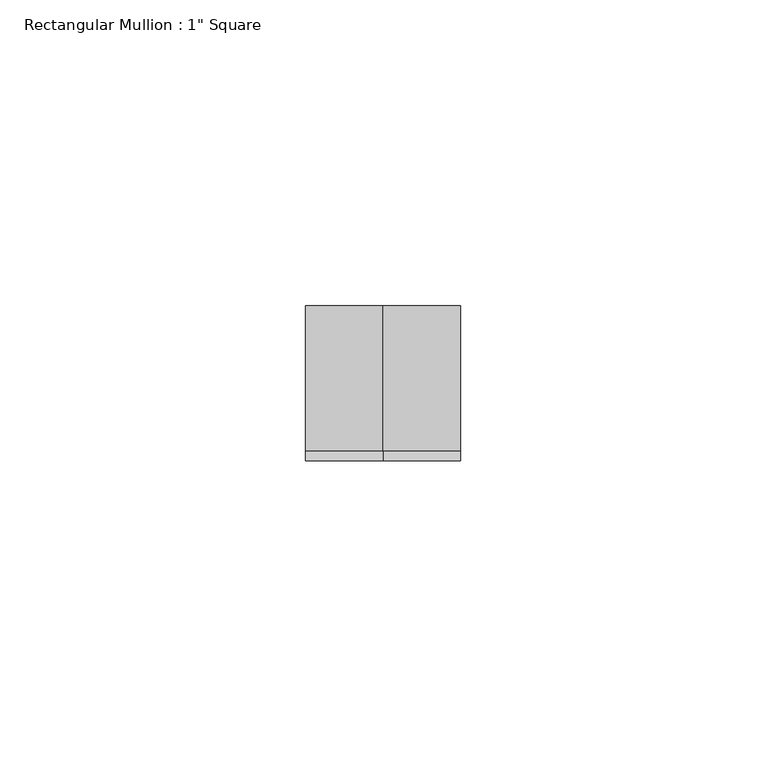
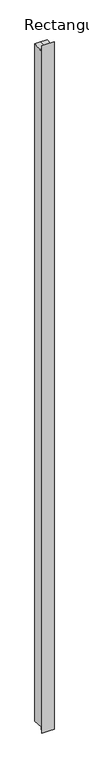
"""IFC4 building model written with IfcOpenShell, lengths in millimetres: member geometry."""

import ifcopenshell
import ifcopenshell.guid

model = None  # the IFC model being written
_history = None  # IfcOwnerHistory: only IFC2X3 demands one
_inside = {}  # id of a spatial element -> (the spatial element, [elements in it])
_under = {}  # id of a project, library or spatial element -> (it, [spatial elements below it])
_declared = {}  # id of a project -> (the project, [libraries it declares])
_typed = {}  # id of a type object -> (the type object, [elements of that type])
_made_of = {}  # id of a material, layer set ... -> (it, [elements and type objects made of it])


def new_model(schema):
    """Start an empty IFC model of exactly this schema.

    Asked for "IFC4X3", IfcOpenShell would pick the latest addendum, in which some entities
    have other attributes; the version numbers below select the first issue.
    IFC2X3 requires an IfcOwnerHistory on every rooted entity: one is made here for all.
    """
    global model, _history
    if schema == "IFC4X3":
        model = ifcopenshell.file(schema_version=(4, 3, 0, 0))
    else:
        model = ifcopenshell.file(schema=schema)
    _inside.clear()
    _under.clear()
    _declared.clear()
    _typed.clear()
    _made_of.clear()
    _history = None
    if model.schema == "IFC2X3":
        org = make("IfcOrganization", Name="unknown")
        user = make(
            "IfcPersonAndOrganization",
            ThePerson=make("IfcPerson", FamilyName="unknown"),
            TheOrganization=org,
        )
        app = make(
            "IfcApplication",
            ApplicationDeveloper=org,
            Version="unknown",
            ApplicationFullName="unknown",
            ApplicationIdentifier="unknown",
        )
        _history = make(
            "IfcOwnerHistory",
            OwningUser=user,
            OwningApplication=app,
            ChangeAction="ADDED",
            CreationDate=0,
        )
    return model


def make(cls, **values):
    """One entity of the class cls with the attributes given. An attribute that is None is left unset."""
    return model.create_entity(
        cls, **{name: value for name, value in values.items() if value is not None}
    )


def rooted(cls, **values):
    """An entity with a GlobalId (a new one), such as an element, a storey or a relation."""
    return make(cls, GlobalId=ifcopenshell.guid.new(), OwnerHistory=_history, **values)


def si_unit(unit_type, name, prefix=None):
    """IfcSIUnit, for example si_unit("LENGTHUNIT", "METRE", prefix="MILLI")."""
    return make("IfcSIUnit", UnitType=unit_type, Prefix=prefix, Name=name)


def assignment(units):
    """IfcUnitAssignment: the units of a project."""
    return None if units is None else make("IfcUnitAssignment", Units=units)


def point(xyz):
    """IfcCartesianPoint."""
    return None if xyz is None else make("IfcCartesianPoint", Coordinates=xyz)


def direction(xyz):
    """IfcDirection."""
    return None if xyz is None else make("IfcDirection", DirectionRatios=xyz)


def frame(location, z_axis=None, x_axis=None):
    """IfcAxis2Placement3D, a coordinate frame: its origin and axes. An axis left out is left unset."""
    return make(
        "IfcAxis2Placement3D",
        Location=point(location),
        Axis=direction(z_axis),
        RefDirection=direction(x_axis),
    )


def origin():
    """The frame at (0, 0, 0) with its axes left unset."""
    return frame((0.0, 0.0, 0.0))


def place(relative_to, where):
    """IfcLocalPlacement: puts the frame where relative to a parent placement (None: the world)."""
    return make(
        "IfcLocalPlacement", PlacementRelTo=relative_to, RelativePlacement=where
    )


def context(
    kind, dimensions, precision=None, world=None, true_north=None, identifier=None
):
    """IfcGeometricRepresentationContext, for example the 3D "Model" context."""
    return make(
        "IfcGeometricRepresentationContext",
        ContextIdentifier=identifier,
        ContextType=kind,
        CoordinateSpaceDimension=dimensions,
        Precision=precision,
        WorldCoordinateSystem=world,
        TrueNorth=true_north,
    )


def project(units=None, contexts=None):
    """IfcProject with its units and contexts."""
    return rooted(
        "IfcProject",
        Name="project",
        RepresentationContexts=contexts,
        UnitsInContext=assignment(units),
    )


def spatial(cls, under=None, at=None, **own):
    """A site, building, storey or space (cls), placed at a placement, below another one or the project."""
    s = rooted(cls, ObjectPlacement=at, **own)
    if under is not None:
        _under.setdefault(under.id(), (under, []))[1].append(s)
    return s


def faces_of(points, faces, orient=None, outer=None):
    """IfcFace entities. A face is a list of loops; a loop is a list of indices into points, from 0.

    orient and outer hold one flag for each loop. By default every Orientation is true, the
    first loop of a face is its IfcFaceOuterBound and the others are IfcFaceBound.
    """
    made = []
    for i, loops in enumerate(faces):
        bounds = []
        for j, loop in enumerate(loops):
            is_outer = j == 0 if outer is None else outer[i][j]
            bounds.append(
                make(
                    "IfcFaceOuterBound" if is_outer else "IfcFaceBound",
                    Bound=make("IfcPolyLoop", Polygon=[points[k] for k in loop]),
                    Orientation=True if orient is None else orient[i][j],
                )
            )
        made.append(make("IfcFace", Bounds=bounds))
    return made


def faceted_brep(points, faces, orient=None, outer=None, voids=None):
    """IfcFacetedBrep: a solid bounded by flat faces; with voids (closed shells), ...WithVoids."""
    shared = [point(p) for p in points]
    hull = make("IfcClosedShell", CfsFaces=faces_of(shared, faces, orient, outer))
    if voids is None:
        return make("IfcFacetedBrep", Outer=hull)
    return make(
        "IfcFacetedBrepWithVoids",
        Outer=hull,
        Voids=[
            make(cls, CfsFaces=faces_of(shared, fs, o, b)) for cls, fs, o, b in voids
        ],
    )


def shape(context_of_items, identifier, shape_type, items):
    """IfcShapeRepresentation: the items that make up one representation, for example the "Body"."""
    return make(
        "IfcShapeRepresentation",
        ContextOfItems=context_of_items,
        RepresentationIdentifier=identifier,
        RepresentationType=shape_type,
        Items=items,
    )


def source(mapping_origin, context_of_items, identifier, shape_type, items):
    """IfcRepresentationMap: a shape defined once, which mapped items show again and again."""
    return make(
        "IfcRepresentationMap",
        MappingOrigin=mapping_origin,
        MappedRepresentation=shape(context_of_items, identifier, shape_type, items),
    )


def transform(
    local_origin,
    x_axis=None,
    y_axis=None,
    z_axis=None,
    scale=None,
    scale2=None,
    scale3=None,
    uniform=True,
):
    """IfcCartesianTransformationOperator3D, or its non-uniform kind. x_axis, y_axis, z_axis: its Axis1, 2, 3."""
    if uniform:
        return make(
            "IfcCartesianTransformationOperator3D",
            Axis1=direction(x_axis),
            Axis2=direction(y_axis),
            LocalOrigin=point(local_origin),
            Scale=scale,
            Axis3=direction(z_axis),
        )
    return make(
        "IfcCartesianTransformationOperator3DnonUniform",
        Axis1=direction(x_axis),
        Axis2=direction(y_axis),
        LocalOrigin=point(local_origin),
        Scale=scale,
        Axis3=direction(z_axis),
        Scale2=scale2,
        Scale3=scale3,
    )


def mapped(mapping_source, mapping_target):
    """IfcMappedItem: shows the shape of a source again, moved by a transform."""
    return make(
        "IfcMappedItem", MappingSource=mapping_source, MappingTarget=mapping_target
    )


def made_of(thing, what):
    """Note that an element or type object is made of a material, layer set ...; save() writes the relation."""
    if what is not None:
        _made_of.setdefault(what.id(), (what, []))[1].append(thing)
    return thing


def element(
    cls,
    number,
    at=None,
    inside=None,
    cuts=None,
    type_object=None,
    material=None,
    context=None,
    identifier="Body",
    shape_type=None,
    held_by="IfcProductDefinitionShape",
    body=None,
    shapes=None,
    **own,
):
    """One element of the class cls, such as IfcWall. Its Tag is "e" and its number.

    at: its placement. inside: the storey or other place that contains it. cuts: it is an
    opening in that element (IfcRelVoidsElement). A single representation is given by context,
    identifier, shape_type and body (its items); several are given by shapes. held_by: the class
    of the entity that holds the representations. save() writes the other relations.
    """
    e = rooted(cls, Tag="e%d" % number, ObjectPlacement=at, **own)
    if body is not None:
        shapes = [shape(context, identifier, shape_type, body)]
    if shapes is not None:
        e.Representation = make(held_by, Representations=shapes)
    if inside is not None:
        _inside.setdefault(inside.id(), (inside, []))[1].append(e)
    if cuts is not None:
        rooted(
            "IfcRelVoidsElement", RelatingBuildingElement=cuts, RelatedOpeningElement=e
        )
    if type_object is not None:
        _typed.setdefault(type_object.id(), (type_object, []))[1].append(e)
    return made_of(e, material)


def aggregate(whole, parts):
    """IfcRelAggregates: a whole, such as a stair, and the parts it consists of."""
    return rooted("IfcRelAggregates", RelatingObject=whole, RelatedObjects=parts)


def save(model, path):
    """Write the relations noted so far, then the file.

    IfcRelAggregates (storeys below a building ...), IfcRelContainedInSpatialStructure (elements
    in a storey), IfcRelDefinesByType, IfcRelAssociatesMaterial and IfcRelDeclares: one each for
    every whole, place, type object, material and project.
    """
    for whole, parts in _under.values():
        aggregate(whole, parts)
    for where, things in _inside.values():
        rooted(
            "IfcRelContainedInSpatialStructure",
            RelatedElements=things,
            RelatingStructure=where,
        )
    for kind, things in _typed.values():
        rooted("IfcRelDefinesByType", RelatedObjects=things, RelatingType=kind)
    for what, things in _made_of.values():
        rooted("IfcRelAssociatesMaterial", RelatedObjects=things, RelatingMaterial=what)
    for by, libraries in _declared.values():
        rooted("IfcRelDeclares", RelatingContext=by, RelatedDefinitions=libraries)
    model.write(path)


def member_648f3f05(model_context):
    return source(origin(), model_context, "Body", "Brep", [
        faceted_brep([(-12.7, 12.7, 1.4996528), (0.0, 12.7, 1.4996528), (12.7, 12.7, 1.4996528), (12.7, 12.7, -1500.0996528), (0.0, 12.7, -1500.0996528), (-12.7, 12.7, -1500.0996528), (-12.7, -12.7, 11.903125), (-12.7, -11.0128906, -1.4878906), (-12.7, -11.0128906, -1497.1121094), (-12.7, -12.7, -1510.503125), (12.7, -12.7, 11.903125), (0.0, -12.7, 11.903125), (0.0, -12.7, -1510.503125), (12.7, -12.7, -1510.503125), (12.7, -11.0128906, -1.4878906), (12.7, -11.0128906, -1497.1121094), (0.0, -11.0128906, -1.4878906), (0.0, -11.0128906, -1497.1121094)], [[[0, 1, 2, 3, 4, 5]], [[6, 7, 0, 5, 8, 9]], [[10, 11, 6, 9, 12, 13]], [[2, 14, 10, 13, 15, 3]], [[2, 1, 16, 14]], [[1, 0, 7, 16]], [[7, 6, 11, 16]], [[11, 10, 14, 16]], [[3, 15, 17, 4]], [[15, 13, 12, 17]], [[12, 9, 8, 17]], [[8, 5, 4, 17]]]),
    ])


if __name__ == "__main__":
    model = new_model("IFC4")
    model_context = context("Model", 3, world=origin())
    ifc_project = project(units=[si_unit("LENGTHUNIT", "METRE", prefix="MILLI")], contexts=[model_context])
    site = spatial("IfcSite", under=ifc_project)
    building = spatial("IfcBuilding", under=site)
    placement = place(None, origin())
    member_shape = member_648f3f05(model_context)
    element("IfcMember", 1, ObjectType="Rectangular Mullion : 1\" Square", at=placement, inside=building, context=model_context, shape_type="MappedRepresentation", body=[
        mapped(member_shape, transform((0.0, 0.0, 0.0), x_axis=(1.0, 0.0, 0.0), y_axis=(0.0, 1.0, 0.0), z_axis=(0.0, 0.0, 1.0))),
    ])
    save(model, "model.ifc")
